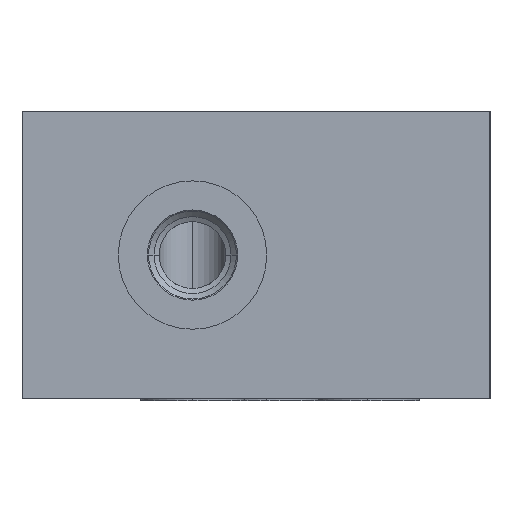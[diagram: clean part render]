
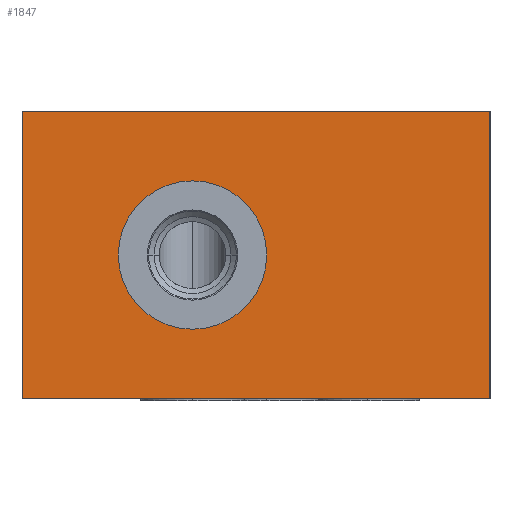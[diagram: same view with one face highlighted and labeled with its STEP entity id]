
A CAD part, left-side view. The second image highlights one B-rep face of the part: STEP entity #1847.
In plain terms, the highlighted planar face has unit normal (-1, 0, 0).
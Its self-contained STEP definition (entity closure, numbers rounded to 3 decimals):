
#73=DIRECTION('',(0.,1.,0.));
#74=VECTOR('',#73,70.);
#75=CARTESIAN_POINT('',(0.,0.,0.));
#76=LINE('',#75,#74);
#224=DIRECTION('',(0.,0.,-1.));
#225=VECTOR('',#224,43.);
#226=CARTESIAN_POINT('',(0.,0.,43.));
#227=LINE('',#226,#225);
#231=DIRECTION('',(0.,0.,-1.));
#232=VECTOR('',#231,43.);
#233=CARTESIAN_POINT('',(0.,70.,43.));
#234=LINE('',#233,#232);
#238=CARTESIAN_POINT('',(0.,44.5,21.5));
#239=DIRECTION('',(1.,0.,0.));
#240=DIRECTION('',(0.,1.,0.));
#241=AXIS2_PLACEMENT_3D('',#238,#239,#240);
#246=CARTESIAN_POINT('',(0.,44.5,21.5));
#247=DIRECTION('',(1.,0.,0.));
#248=DIRECTION('',(0.,-1.,0.));
#249=AXIS2_PLACEMENT_3D('',#246,#247,#248);
#291=DIRECTION('',(0.,1.,0.));
#292=VECTOR('',#291,70.);
#293=CARTESIAN_POINT('',(0.,0.,43.));
#294=LINE('',#293,#292);
#1539=CARTESIAN_POINT('',(0.,0.,0.));
#1541=VERTEX_POINT('',#1539);
#1544=CARTESIAN_POINT('',(0.,70.,0.));
#1545=VERTEX_POINT('',#1544);
#1547=CARTESIAN_POINT('',(0.,0.,43.));
#1549=VERTEX_POINT('',#1547);
#1552=CARTESIAN_POINT('',(0.,70.,43.));
#1553=VERTEX_POINT('',#1552);
#1670=CARTESIAN_POINT('',(0.,55.6,21.5));
#1671=VERTEX_POINT('',#1670);
#1672=CARTESIAN_POINT('',(0.,33.4,21.5));
#1673=VERTEX_POINT('',#1672);
#1828=CARTESIAN_POINT('',(0.,70.,0.));
#1829=DIRECTION('',(-1.,0.,0.));
#1830=DIRECTION('',(0.,-1.,0.));
#1831=AXIS2_PLACEMENT_3D('',#1828,#1829,#1830);
#1832=PLANE('',#1831);
#1833=ORIENTED_EDGE('',*,*,#1742,.T.);
#1835=ORIENTED_EDGE('',*,*,#1834,.F.);
#1837=ORIENTED_EDGE('',*,*,#1836,.F.);
#1838=ORIENTED_EDGE('',*,*,#1807,.T.);
#1839=EDGE_LOOP('',(#1833,#1835,#1837,#1838));
#1840=FACE_OUTER_BOUND('',#1839,.F.);
#1842=ORIENTED_EDGE('',*,*,#1841,.F.);
#1844=ORIENTED_EDGE('',*,*,#1843,.F.);
#1845=EDGE_LOOP('',(#1842,#1844));
#1846=FACE_BOUND('',#1845,.F.);
#242=CIRCLE('',#241,11.1);
#250=CIRCLE('',#249,11.1);
#1742=EDGE_CURVE('',#1541,#1545,#76,.T.);
#1807=EDGE_CURVE('',#1549,#1541,#227,.T.);
#1834=EDGE_CURVE('',#1553,#1545,#234,.T.);
#1836=EDGE_CURVE('',#1549,#1553,#294,.T.);
#1841=EDGE_CURVE('',#1671,#1673,#242,.T.);
#1843=EDGE_CURVE('',#1673,#1671,#250,.T.);
#1847=ADVANCED_FACE('',(#1840,#1846),#1832,.T.);
